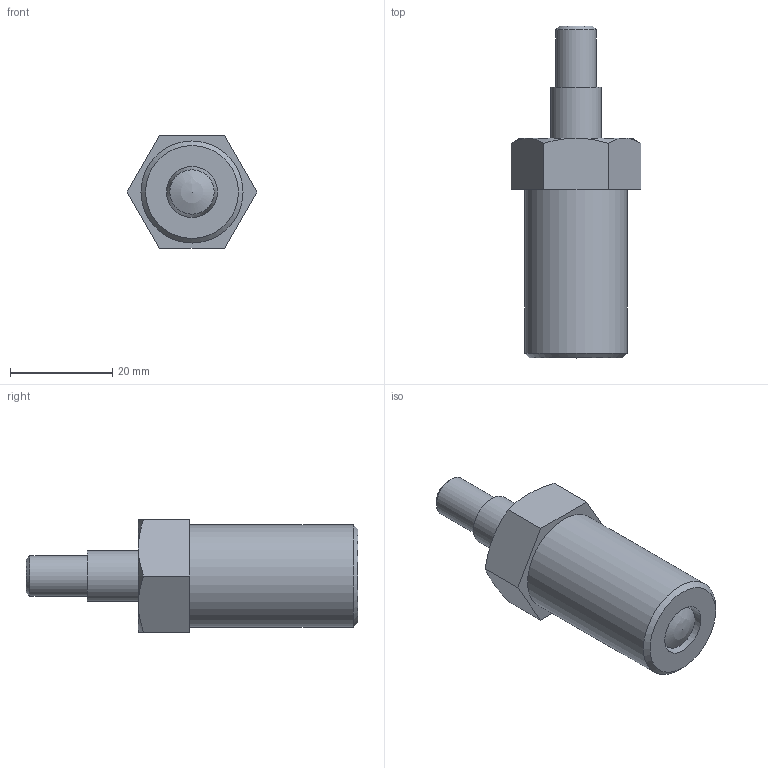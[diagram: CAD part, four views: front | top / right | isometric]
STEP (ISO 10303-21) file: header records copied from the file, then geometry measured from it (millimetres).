
FILE_DESCRIPTION( ( 'STEP AP203' ), '1' );
FILE_NAME( 'C:/Temp/Ganter_Step_05_03_2020/data/3_1/gn617_n/gn617n_g/Stainless Steel Indexing plunger GN 617-10-G-NI (activated).stp', '2020-03-12T08:43:13', ( 'License CC BY-ND 4.0' ), ( 'CADENAS' ), ' ', 'PARTsolutions', ' ' );
FILE_SCHEMA( ( 'CONFIG_CONTROL_DESIGN' ) );
Length unit declared in the file: millimetre
Products named in the file (3): Stainless Steel Indexing plunger GN 617-10-G-NI (activated); _STAINLESS STEEL - Indexing plunger GN 617-10-G-NI-2; _Indexing plunger GN 617-10-G-NI (1)-1
Assembly tree (2 placements, depth 2):
  Stainless Steel Indexing plunger GN 617-10-G-NI (activated)
    _STAINLESS STEEL - Indexing plunger GN 617-10-G-NI-2
    _Indexing plunger GN 617-10-G-NI (1)-1
Bounding box: 25.4 x 65 x 22 mm (x, y, z)
Volume: 14072.1 mm3; surface area: 7930.6 mm2
Topology: 2 solids, 2 shells, 33 faces, 62 edges, 38 vertices
Faces by surface type: plane 15, cone 9, cylinder 8, sphere 1
Full cylindrical faces by diameter (mm): 8 x1, 10 x4, 18 x2, 20 x1
Entity records: 916 total; most frequent: CARTESIAN_POINT 195, DIRECTION 134, ORIENTED_EDGE 98, AXIS2_PLACEMENT_3D 61, EDGE_LOOP 52, EDGE_CURVE 49, FACE_OUTER_BOUND 41, VERTEX_POINT 38
